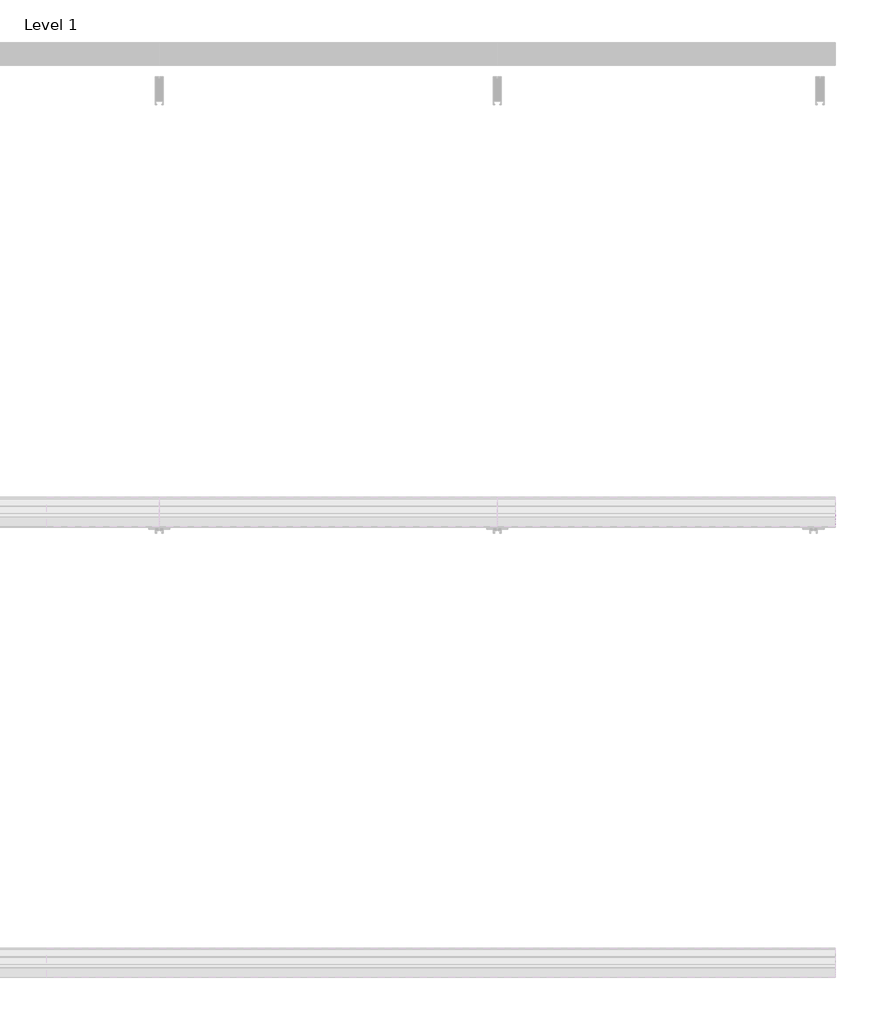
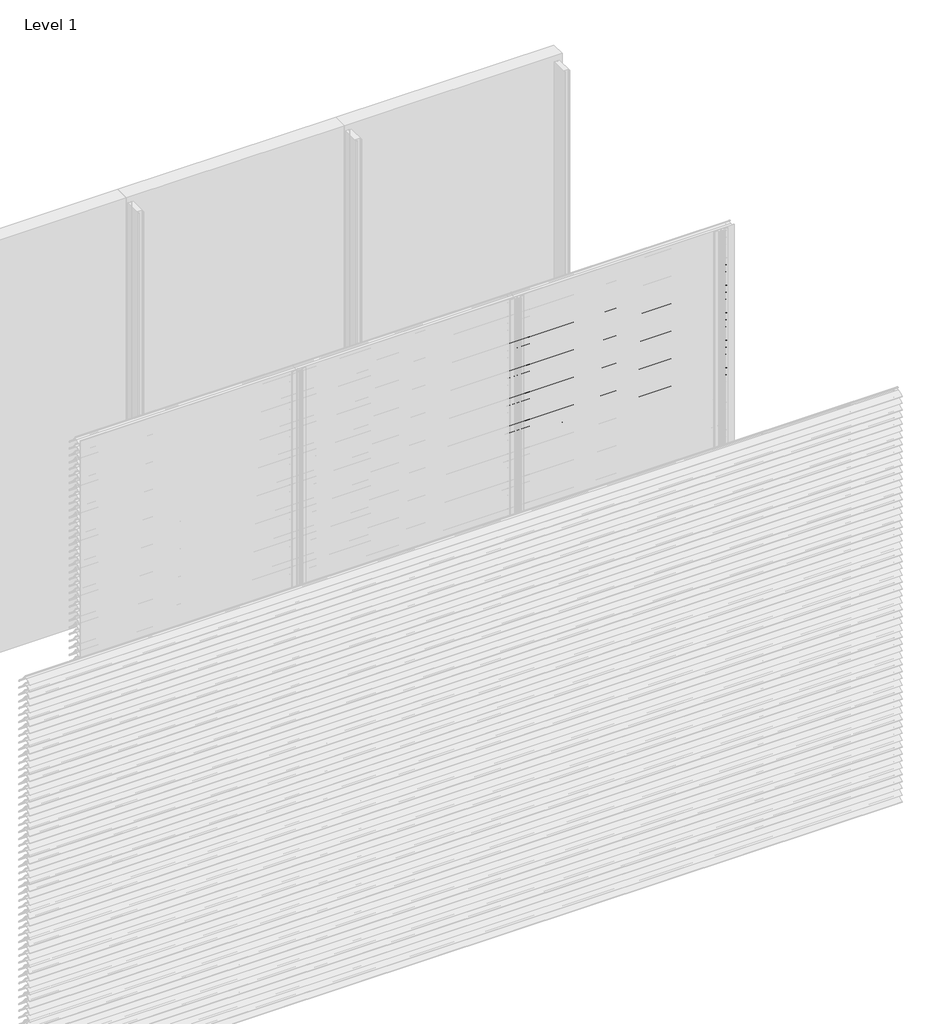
# One storey, part 17 of 173: 17 proxies.
"""IFC4 building model written with IfcOpenShell, lengths in millimetres."""

from ifc_helpers import new_model, si_unit, point, frame, frame_2d, origin, place, context, project, spatial, polyline, circle_curve, trimmed, segment, composite_curve, outline, extrude, element, save

model = new_model("IFC4")

# Units and contexts
model_context = context("Model", 3, world=origin())
ifc_project = project(units=[si_unit("LENGTHUNIT", "METRE", prefix="MILLI")], contexts=[model_context])

# Site, building, storey
site = spatial("IfcSite", under=ifc_project)
building = spatial("IfcBuilding", under=site)
storey = spatial("IfcBuildingStorey", under=building, Name="Level 1", Elevation=0.0)

# Proxies
placement = place(None, origin())
element("IfcBuildingElementProxy", 1, Name="Wall Sweeps", at=placement, inside=storey, context=model_context, shape_type="SweptSolid", body=[
    extrude(outline(composite_curve([segment(polyline([(-53998.0, 2659.1474905), (-53998.0, 2661.6227417)]), True, "CONTINUOUS"), segment(trimmed(circle_curve(frame_2d((-53951.2682172, 2616.2200208)), 65.1557103), [point((-53998.0, 2661.6227417))], [point((-53954.4014323, 2681.3003524))], False, "CARTESIAN"), True, "CONTINUOUS"), segment(polyline([(-53954.4014323, 2681.3003524), (-53934.8315836, 2681.3003524)]), True, "CONTINUOUS"), segment(trimmed(circle_curve(frame_2d((-53732.7329489, 2828.5533172)), 250.0545817), [point((-53934.8315836, 2681.3003524))], [point((-53941.4452143, 2690.8344583))], False, "CARTESIAN"), True, "CONTINUOUS"), segment(trimmed(circle_curve(frame_2d((-53953.2981792, 2685.1737835)), 13.1352966), [point((-53941.4452143, 2690.8344583))], [point((-53953.8171475, 2698.298824))], True, "CARTESIAN"), True, "CONTINUOUS"), segment(polyline([(-53953.8171475, 2698.298824), (-53953.8171475, 2700.0)]), True, "CONTINUOUS"), segment(trimmed(circle_curve(frame_2d((-53953.2981792, 2685.1737835)), 14.8352966), [point((-53953.8171475, 2700.0))], [point((-53939.9637661, 2691.6760487))], False, "CARTESIAN"), True, "CONTINUOUS"), segment(trimmed(circle_curve(frame_2d((-53732.7329489, 2828.5533172)), 248.3545817), [point((-53939.9637661, 2691.6760487))], [point((-53873.8787895, 2624.2059416))], True, "CARTESIAN"), True, "CONTINUOUS"), segment(trimmed(circle_curve(frame_2d((-53883.8147537, 2611.6649442)), 16.0), [point((-53873.8787895, 2624.2059416))], [point((-53867.8648347, 2610.4))], False, "CARTESIAN"), True, "CONTINUOUS"), segment(polyline([(-53867.8648347, 2610.4), (-53869.6712069, 2610.4)]), True, "CONTINUOUS"), segment(trimmed(circle_curve(frame_2d((-53883.8147537, 2611.6649442)), 14.2), [point((-53869.6712069, 2610.4))], [point((-53874.9518628, 2622.7594998))], True, "CARTESIAN"), True, "CONTINUOUS"), segment(trimmed(circle_curve(frame_2d((-53732.7329489, 2828.5533172)), 250.1545817), [point((-53874.9518628, 2622.7594998))], [point((-53933.7064024, 2679.6003524))], False, "CARTESIAN"), True, "CONTINUOUS"), segment(polyline([(-53933.7064024, 2679.6003524), (-53954.3602632, 2679.6003524)]), True, "CONTINUOUS"), segment(trimmed(circle_curve(frame_2d((-53951.2682172, 2616.2200208)), 63.4557103), [point((-53954.3602632, 2679.6003524))], [point((-53998.0, 2659.1474905))], True, "CARTESIAN"), True, "CONTINUOUS")], self_intersect=False)), frame((4500.0, 0.0, 0.0), z_axis=(1.0, 0.0, 0.0), x_axis=(0.0, 1.0, 0.0)), (0.0, 0.0, 1.0), 1500.0),
])
element("IfcBuildingElementProxy", 2, Name="Wall Sweeps", at=placement, inside=storey, context=model_context, shape_type="SweptSolid", body=[
    extrude(outline(composite_curve([segment(polyline([(-53998.0, 2609.1474905), (-53998.0, 2611.6227417)]), True, "CONTINUOUS"), segment(trimmed(circle_curve(frame_2d((-53951.2682172, 2566.2200208)), 65.1557103), [point((-53998.0, 2611.6227417))], [point((-53954.4014323, 2631.3003524))], False, "CARTESIAN"), True, "CONTINUOUS"), segment(polyline([(-53954.4014323, 2631.3003524), (-53934.8315836, 2631.3003524)]), True, "CONTINUOUS"), segment(trimmed(circle_curve(frame_2d((-53732.7329489, 2778.5533172)), 250.0545817), [point((-53934.8315836, 2631.3003524))], [point((-53941.4452143, 2640.8344583))], False, "CARTESIAN"), True, "CONTINUOUS"), segment(trimmed(circle_curve(frame_2d((-53953.2981792, 2635.1737835)), 13.1352966), [point((-53941.4452143, 2640.8344583))], [point((-53953.8171475, 2648.298824))], True, "CARTESIAN"), True, "CONTINUOUS"), segment(polyline([(-53953.8171475, 2648.298824), (-53953.8171475, 2650.0)]), True, "CONTINUOUS"), segment(trimmed(circle_curve(frame_2d((-53953.2981792, 2635.1737835)), 14.8352966), [point((-53953.8171475, 2650.0))], [point((-53939.9637661, 2641.6760487))], False, "CARTESIAN"), True, "CONTINUOUS"), segment(trimmed(circle_curve(frame_2d((-53732.7329489, 2778.5533172)), 248.3545817), [point((-53939.9637661, 2641.6760487))], [point((-53873.8787895, 2574.2059416))], True, "CARTESIAN"), True, "CONTINUOUS"), segment(trimmed(circle_curve(frame_2d((-53883.8147537, 2561.6649442)), 16.0), [point((-53873.8787895, 2574.2059416))], [point((-53867.8648347, 2560.4))], False, "CARTESIAN"), True, "CONTINUOUS"), segment(polyline([(-53867.8648347, 2560.4), (-53869.6712069, 2560.4)]), True, "CONTINUOUS"), segment(trimmed(circle_curve(frame_2d((-53883.8147537, 2561.6649442)), 14.2), [point((-53869.6712069, 2560.4))], [point((-53874.9518628, 2572.7594998))], True, "CARTESIAN"), True, "CONTINUOUS"), segment(trimmed(circle_curve(frame_2d((-53732.7329489, 2778.5533172)), 250.1545817), [point((-53874.9518628, 2572.7594998))], [point((-53933.7064024, 2629.6003524))], False, "CARTESIAN"), True, "CONTINUOUS"), segment(polyline([(-53933.7064024, 2629.6003524), (-53954.3602632, 2629.6003524)]), True, "CONTINUOUS"), segment(trimmed(circle_curve(frame_2d((-53951.2682172, 2566.2200208)), 63.4557103), [point((-53954.3602632, 2629.6003524))], [point((-53998.0, 2609.1474905))], True, "CARTESIAN"), True, "CONTINUOUS")], self_intersect=False)), frame((4500.0, 0.0, 0.0), z_axis=(1.0, 0.0, 0.0), x_axis=(0.0, 1.0, 0.0)), (0.0, 0.0, 1.0), 1500.0),
])
element("IfcBuildingElementProxy", 3, Name="Wall Sweeps", at=placement, inside=storey, context=model_context, shape_type="SweptSolid", body=[
    extrude(outline(composite_curve([segment(polyline([(-53998.0, 2559.1474905), (-53998.0, 2561.6227417)]), True, "CONTINUOUS"), segment(trimmed(circle_curve(frame_2d((-53951.2682172, 2516.2200208)), 65.1557103), [point((-53998.0, 2561.6227417))], [point((-53954.4014323, 2581.3003524))], False, "CARTESIAN"), True, "CONTINUOUS"), segment(polyline([(-53954.4014323, 2581.3003524), (-53934.8315836, 2581.3003524)]), True, "CONTINUOUS"), segment(trimmed(circle_curve(frame_2d((-53732.7329489, 2728.5533172)), 250.0545817), [point((-53934.8315836, 2581.3003524))], [point((-53941.4452143, 2590.8344583))], False, "CARTESIAN"), True, "CONTINUOUS"), segment(trimmed(circle_curve(frame_2d((-53953.2981792, 2585.1737835)), 13.1352966), [point((-53941.4452143, 2590.8344583))], [point((-53953.8171475, 2598.298824))], True, "CARTESIAN"), True, "CONTINUOUS"), segment(polyline([(-53953.8171475, 2598.298824), (-53953.8171475, 2600.0)]), True, "CONTINUOUS"), segment(trimmed(circle_curve(frame_2d((-53953.2981792, 2585.1737835)), 14.8352966), [point((-53953.8171475, 2600.0))], [point((-53939.9637661, 2591.6760487))], False, "CARTESIAN"), True, "CONTINUOUS"), segment(trimmed(circle_curve(frame_2d((-53732.7329489, 2728.5533172)), 248.3545817), [point((-53939.9637661, 2591.6760487))], [point((-53873.8787895, 2524.2059416))], True, "CARTESIAN"), True, "CONTINUOUS"), segment(trimmed(circle_curve(frame_2d((-53883.8147537, 2511.6649442)), 16.0), [point((-53873.8787895, 2524.2059416))], [point((-53867.8648347, 2510.4))], False, "CARTESIAN"), True, "CONTINUOUS"), segment(polyline([(-53867.8648347, 2510.4), (-53869.6712069, 2510.4)]), True, "CONTINUOUS"), segment(trimmed(circle_curve(frame_2d((-53883.8147537, 2511.6649442)), 14.2), [point((-53869.6712069, 2510.4))], [point((-53874.9518628, 2522.7594998))], True, "CARTESIAN"), True, "CONTINUOUS"), segment(trimmed(circle_curve(frame_2d((-53732.7329489, 2728.5533172)), 250.1545817), [point((-53874.9518628, 2522.7594998))], [point((-53933.7064024, 2579.6003524))], False, "CARTESIAN"), True, "CONTINUOUS"), segment(polyline([(-53933.7064024, 2579.6003524), (-53954.3602632, 2579.6003524)]), True, "CONTINUOUS"), segment(trimmed(circle_curve(frame_2d((-53951.2682172, 2516.2200208)), 63.4557103), [point((-53954.3602632, 2579.6003524))], [point((-53998.0, 2559.1474905))], True, "CARTESIAN"), True, "CONTINUOUS")], self_intersect=False)), frame((4500.0, 0.0, 0.0), z_axis=(1.0, 0.0, 0.0), x_axis=(0.0, 1.0, 0.0)), (0.0, 0.0, 1.0), 1500.0),
])
element("IfcBuildingElementProxy", 4, Name="Wall Sweeps", at=placement, inside=storey, context=model_context, shape_type="SweptSolid", body=[
    extrude(outline(composite_curve([segment(polyline([(-53998.0, 2509.1474905), (-53998.0, 2511.6227417)]), True, "CONTINUOUS"), segment(trimmed(circle_curve(frame_2d((-53951.2682172, 2466.2200208)), 65.1557103), [point((-53998.0, 2511.6227417))], [point((-53954.4014323, 2531.3003524))], False, "CARTESIAN"), True, "CONTINUOUS"), segment(polyline([(-53954.4014323, 2531.3003524), (-53934.8315836, 2531.3003524)]), True, "CONTINUOUS"), segment(trimmed(circle_curve(frame_2d((-53732.7329489, 2678.5533172)), 250.0545817), [point((-53934.8315836, 2531.3003524))], [point((-53941.4452143, 2540.8344583))], False, "CARTESIAN"), True, "CONTINUOUS"), segment(trimmed(circle_curve(frame_2d((-53953.2981792, 2535.1737835)), 13.1352966), [point((-53941.4452143, 2540.8344583))], [point((-53953.8171475, 2548.298824))], True, "CARTESIAN"), True, "CONTINUOUS"), segment(polyline([(-53953.8171475, 2548.298824), (-53953.8171475, 2550.0)]), True, "CONTINUOUS"), segment(trimmed(circle_curve(frame_2d((-53953.2981792, 2535.1737835)), 14.8352966), [point((-53953.8171475, 2550.0))], [point((-53939.9637661, 2541.6760487))], False, "CARTESIAN"), True, "CONTINUOUS"), segment(trimmed(circle_curve(frame_2d((-53732.7329489, 2678.5533172)), 248.3545817), [point((-53939.9637661, 2541.6760487))], [point((-53873.8787895, 2474.2059416))], True, "CARTESIAN"), True, "CONTINUOUS"), segment(trimmed(circle_curve(frame_2d((-53883.8147537, 2461.6649442)), 16.0), [point((-53873.8787895, 2474.2059416))], [point((-53867.8648347, 2460.4))], False, "CARTESIAN"), True, "CONTINUOUS"), segment(polyline([(-53867.8648347, 2460.4), (-53869.6712069, 2460.4)]), True, "CONTINUOUS"), segment(trimmed(circle_curve(frame_2d((-53883.8147537, 2461.6649442)), 14.2), [point((-53869.6712069, 2460.4))], [point((-53874.9518628, 2472.7594998))], True, "CARTESIAN"), True, "CONTINUOUS"), segment(trimmed(circle_curve(frame_2d((-53732.7329489, 2678.5533172)), 250.1545817), [point((-53874.9518628, 2472.7594998))], [point((-53933.7064024, 2529.6003524))], False, "CARTESIAN"), True, "CONTINUOUS"), segment(polyline([(-53933.7064024, 2529.6003524), (-53954.3602632, 2529.6003524)]), True, "CONTINUOUS"), segment(trimmed(circle_curve(frame_2d((-53951.2682172, 2466.2200208)), 63.4557103), [point((-53954.3602632, 2529.6003524))], [point((-53998.0, 2509.1474905))], True, "CARTESIAN"), True, "CONTINUOUS")], self_intersect=False)), frame((4500.0, 0.0, 0.0), z_axis=(1.0, 0.0, 0.0), x_axis=(0.0, 1.0, 0.0)), (0.0, 0.0, 1.0), 1500.0),
])
element("IfcBuildingElementProxy", 5, Name="Wall Sweeps", at=placement, inside=storey, context=model_context, shape_type="SweptSolid", body=[
    extrude(outline(composite_curve([segment(polyline([(-53998.0, 2459.1474905), (-53998.0, 2461.6227417)]), True, "CONTINUOUS"), segment(trimmed(circle_curve(frame_2d((-53951.2682172, 2416.2200208)), 65.1557103), [point((-53998.0, 2461.6227417))], [point((-53954.4014323, 2481.3003524))], False, "CARTESIAN"), True, "CONTINUOUS"), segment(polyline([(-53954.4014323, 2481.3003524), (-53934.8315836, 2481.3003524)]), True, "CONTINUOUS"), segment(trimmed(circle_curve(frame_2d((-53732.7329489, 2628.5533172)), 250.0545817), [point((-53934.8315836, 2481.3003524))], [point((-53941.4452143, 2490.8344583))], False, "CARTESIAN"), True, "CONTINUOUS"), segment(trimmed(circle_curve(frame_2d((-53953.2981792, 2485.1737835)), 13.1352966), [point((-53941.4452143, 2490.8344583))], [point((-53953.8171475, 2498.298824))], True, "CARTESIAN"), True, "CONTINUOUS"), segment(polyline([(-53953.8171475, 2498.298824), (-53953.8171475, 2500.0)]), True, "CONTINUOUS"), segment(trimmed(circle_curve(frame_2d((-53953.2981792, 2485.1737835)), 14.8352966), [point((-53953.8171475, 2500.0))], [point((-53939.9637661, 2491.6760487))], False, "CARTESIAN"), True, "CONTINUOUS"), segment(trimmed(circle_curve(frame_2d((-53732.7329489, 2628.5533172)), 248.3545817), [point((-53939.9637661, 2491.6760487))], [point((-53873.8787895, 2424.2059416))], True, "CARTESIAN"), True, "CONTINUOUS"), segment(trimmed(circle_curve(frame_2d((-53883.8147537, 2411.6649442)), 16.0), [point((-53873.8787895, 2424.2059416))], [point((-53867.8648347, 2410.4))], False, "CARTESIAN"), True, "CONTINUOUS"), segment(polyline([(-53867.8648347, 2410.4), (-53869.6712069, 2410.4)]), True, "CONTINUOUS"), segment(trimmed(circle_curve(frame_2d((-53883.8147537, 2411.6649442)), 14.2), [point((-53869.6712069, 2410.4))], [point((-53874.9518628, 2422.7594998))], True, "CARTESIAN"), True, "CONTINUOUS"), segment(trimmed(circle_curve(frame_2d((-53732.7329489, 2628.5533172)), 250.1545817), [point((-53874.9518628, 2422.7594998))], [point((-53933.7064024, 2479.6003524))], False, "CARTESIAN"), True, "CONTINUOUS"), segment(polyline([(-53933.7064024, 2479.6003524), (-53954.3602632, 2479.6003524)]), True, "CONTINUOUS"), segment(trimmed(circle_curve(frame_2d((-53951.2682172, 2416.2200208)), 63.4557103), [point((-53954.3602632, 2479.6003524))], [point((-53998.0, 2459.1474905))], True, "CARTESIAN"), True, "CONTINUOUS")], self_intersect=False)), frame((4500.0, 0.0, 0.0), z_axis=(1.0, 0.0, 0.0), x_axis=(0.0, 1.0, 0.0)), (0.0, 0.0, 1.0), 1500.0),
])
element("IfcBuildingElementProxy", 6, Name="Wall Sweeps", at=placement, inside=storey, context=model_context, shape_type="SweptSolid", body=[
    extrude(outline(composite_curve([segment(polyline([(-53998.0, 2409.1474905), (-53998.0, 2411.6227417)]), True, "CONTINUOUS"), segment(trimmed(circle_curve(frame_2d((-53951.2682172, 2366.2200208)), 65.1557103), [point((-53998.0, 2411.6227417))], [point((-53954.4014323, 2431.3003524))], False, "CARTESIAN"), True, "CONTINUOUS"), segment(polyline([(-53954.4014323, 2431.3003524), (-53934.8315836, 2431.3003524)]), True, "CONTINUOUS"), segment(trimmed(circle_curve(frame_2d((-53732.7329489, 2578.5533172)), 250.0545817), [point((-53934.8315836, 2431.3003524))], [point((-53941.4452143, 2440.8344583))], False, "CARTESIAN"), True, "CONTINUOUS"), segment(trimmed(circle_curve(frame_2d((-53953.2981792, 2435.1737835)), 13.1352966), [point((-53941.4452143, 2440.8344583))], [point((-53953.8171475, 2448.298824))], True, "CARTESIAN"), True, "CONTINUOUS"), segment(polyline([(-53953.8171475, 2448.298824), (-53953.8171475, 2450.0)]), True, "CONTINUOUS"), segment(trimmed(circle_curve(frame_2d((-53953.2981792, 2435.1737835)), 14.8352966), [point((-53953.8171475, 2450.0))], [point((-53939.9637661, 2441.6760487))], False, "CARTESIAN"), True, "CONTINUOUS"), segment(trimmed(circle_curve(frame_2d((-53732.7329489, 2578.5533172)), 248.3545817), [point((-53939.9637661, 2441.6760487))], [point((-53873.8787895, 2374.2059416))], True, "CARTESIAN"), True, "CONTINUOUS"), segment(trimmed(circle_curve(frame_2d((-53883.8147537, 2361.6649442)), 16.0), [point((-53873.8787895, 2374.2059416))], [point((-53867.8648347, 2360.4))], False, "CARTESIAN"), True, "CONTINUOUS"), segment(polyline([(-53867.8648347, 2360.4), (-53869.6712069, 2360.4)]), True, "CONTINUOUS"), segment(trimmed(circle_curve(frame_2d((-53883.8147537, 2361.6649442)), 14.2), [point((-53869.6712069, 2360.4))], [point((-53874.9518628, 2372.7594998))], True, "CARTESIAN"), True, "CONTINUOUS"), segment(trimmed(circle_curve(frame_2d((-53732.7329489, 2578.5533172)), 250.1545817), [point((-53874.9518628, 2372.7594998))], [point((-53933.7064024, 2429.6003524))], False, "CARTESIAN"), True, "CONTINUOUS"), segment(polyline([(-53933.7064024, 2429.6003524), (-53954.3602632, 2429.6003524)]), True, "CONTINUOUS"), segment(trimmed(circle_curve(frame_2d((-53951.2682172, 2366.2200208)), 63.4557103), [point((-53954.3602632, 2429.6003524))], [point((-53998.0, 2409.1474905))], True, "CARTESIAN"), True, "CONTINUOUS")], self_intersect=False)), frame((4500.0, 0.0, 0.0), z_axis=(1.0, 0.0, 0.0), x_axis=(0.0, 1.0, 0.0)), (0.0, 0.0, 1.0), 1500.0),
])
element("IfcBuildingElementProxy", 7, Name="Wall Sweeps", at=placement, inside=storey, context=model_context, shape_type="SweptSolid", body=[
    extrude(outline(composite_curve([segment(polyline([(-53998.0, 2359.1474905), (-53998.0, 2361.6227417)]), True, "CONTINUOUS"), segment(trimmed(circle_curve(frame_2d((-53951.2682172, 2316.2200208)), 65.1557103), [point((-53998.0, 2361.6227417))], [point((-53954.4014323, 2381.3003524))], False, "CARTESIAN"), True, "CONTINUOUS"), segment(polyline([(-53954.4014323, 2381.3003524), (-53934.8315836, 2381.3003524)]), True, "CONTINUOUS"), segment(trimmed(circle_curve(frame_2d((-53732.7329489, 2528.5533172)), 250.0545817), [point((-53934.8315836, 2381.3003524))], [point((-53941.4452143, 2390.8344583))], False, "CARTESIAN"), True, "CONTINUOUS"), segment(trimmed(circle_curve(frame_2d((-53953.2981792, 2385.1737835)), 13.1352966), [point((-53941.4452143, 2390.8344583))], [point((-53953.8171475, 2398.298824))], True, "CARTESIAN"), True, "CONTINUOUS"), segment(polyline([(-53953.8171475, 2398.298824), (-53953.8171475, 2400.0)]), True, "CONTINUOUS"), segment(trimmed(circle_curve(frame_2d((-53953.2981792, 2385.1737835)), 14.8352966), [point((-53953.8171475, 2400.0))], [point((-53939.9637661, 2391.6760487))], False, "CARTESIAN"), True, "CONTINUOUS"), segment(trimmed(circle_curve(frame_2d((-53732.7329489, 2528.5533172)), 248.3545817), [point((-53939.9637661, 2391.6760487))], [point((-53873.8787895, 2324.2059416))], True, "CARTESIAN"), True, "CONTINUOUS"), segment(trimmed(circle_curve(frame_2d((-53883.8147537, 2311.6649442)), 16.0), [point((-53873.8787895, 2324.2059416))], [point((-53867.8648347, 2310.4))], False, "CARTESIAN"), True, "CONTINUOUS"), segment(polyline([(-53867.8648347, 2310.4), (-53869.6712069, 2310.4)]), True, "CONTINUOUS"), segment(trimmed(circle_curve(frame_2d((-53883.8147537, 2311.6649442)), 14.2), [point((-53869.6712069, 2310.4))], [point((-53874.9518628, 2322.7594998))], True, "CARTESIAN"), True, "CONTINUOUS"), segment(trimmed(circle_curve(frame_2d((-53732.7329489, 2528.5533172)), 250.1545817), [point((-53874.9518628, 2322.7594998))], [point((-53933.7064024, 2379.6003524))], False, "CARTESIAN"), True, "CONTINUOUS"), segment(polyline([(-53933.7064024, 2379.6003524), (-53954.3602632, 2379.6003524)]), True, "CONTINUOUS"), segment(trimmed(circle_curve(frame_2d((-53951.2682172, 2316.2200208)), 63.4557103), [point((-53954.3602632, 2379.6003524))], [point((-53998.0, 2359.1474905))], True, "CARTESIAN"), True, "CONTINUOUS")], self_intersect=False)), frame((4500.0, 0.0, 0.0), z_axis=(1.0, 0.0, 0.0), x_axis=(0.0, 1.0, 0.0)), (0.0, 0.0, 1.0), 1500.0),
])
element("IfcBuildingElementProxy", 8, Name="Wall Sweeps", at=placement, inside=storey, context=model_context, shape_type="SweptSolid", body=[
    extrude(outline(composite_curve([segment(polyline([(-53998.0, 2309.1474905), (-53998.0, 2311.6227417)]), True, "CONTINUOUS"), segment(trimmed(circle_curve(frame_2d((-53951.2682172, 2266.2200208)), 65.1557103), [point((-53998.0, 2311.6227417))], [point((-53954.4014323, 2331.3003524))], False, "CARTESIAN"), True, "CONTINUOUS"), segment(polyline([(-53954.4014323, 2331.3003524), (-53934.8315836, 2331.3003524)]), True, "CONTINUOUS"), segment(trimmed(circle_curve(frame_2d((-53732.7329489, 2478.5533172)), 250.0545817), [point((-53934.8315836, 2331.3003524))], [point((-53941.4452143, 2340.8344583))], False, "CARTESIAN"), True, "CONTINUOUS"), segment(trimmed(circle_curve(frame_2d((-53953.2981792, 2335.1737835)), 13.1352966), [point((-53941.4452143, 2340.8344583))], [point((-53953.8171475, 2348.298824))], True, "CARTESIAN"), True, "CONTINUOUS"), segment(polyline([(-53953.8171475, 2348.298824), (-53953.8171475, 2350.0)]), True, "CONTINUOUS"), segment(trimmed(circle_curve(frame_2d((-53953.2981792, 2335.1737835)), 14.8352966), [point((-53953.8171475, 2350.0))], [point((-53939.9637661, 2341.6760487))], False, "CARTESIAN"), True, "CONTINUOUS"), segment(trimmed(circle_curve(frame_2d((-53732.7329489, 2478.5533172)), 248.3545817), [point((-53939.9637661, 2341.6760487))], [point((-53873.8787895, 2274.2059416))], True, "CARTESIAN"), True, "CONTINUOUS"), segment(trimmed(circle_curve(frame_2d((-53883.8147537, 2261.6649442)), 16.0), [point((-53873.8787895, 2274.2059416))], [point((-53867.8648347, 2260.4))], False, "CARTESIAN"), True, "CONTINUOUS"), segment(polyline([(-53867.8648347, 2260.4), (-53869.6712069, 2260.4)]), True, "CONTINUOUS"), segment(trimmed(circle_curve(frame_2d((-53883.8147537, 2261.6649442)), 14.2), [point((-53869.6712069, 2260.4))], [point((-53874.9518628, 2272.7594998))], True, "CARTESIAN"), True, "CONTINUOUS"), segment(trimmed(circle_curve(frame_2d((-53732.7329489, 2478.5533172)), 250.1545817), [point((-53874.9518628, 2272.7594998))], [point((-53933.7064024, 2329.6003524))], False, "CARTESIAN"), True, "CONTINUOUS"), segment(polyline([(-53933.7064024, 2329.6003524), (-53954.3602632, 2329.6003524)]), True, "CONTINUOUS"), segment(trimmed(circle_curve(frame_2d((-53951.2682172, 2266.2200208)), 63.4557103), [point((-53954.3602632, 2329.6003524))], [point((-53998.0, 2309.1474905))], True, "CARTESIAN"), True, "CONTINUOUS")], self_intersect=False)), frame((4500.0, 0.0, 0.0), z_axis=(1.0, 0.0, 0.0), x_axis=(0.0, 1.0, 0.0)), (0.0, 0.0, 1.0), 1500.0),
])
element("IfcBuildingElementProxy", 9, Name="Wall Sweeps", at=placement, inside=storey, context=model_context, shape_type="SweptSolid", body=[
    extrude(outline(composite_curve([segment(polyline([(-53998.0, 2259.1474905), (-53998.0, 2261.6227417)]), True, "CONTINUOUS"), segment(trimmed(circle_curve(frame_2d((-53951.2682172, 2216.2200208)), 65.1557103), [point((-53998.0, 2261.6227417))], [point((-53954.4014323, 2281.3003524))], False, "CARTESIAN"), True, "CONTINUOUS"), segment(polyline([(-53954.4014323, 2281.3003524), (-53934.8315836, 2281.3003524)]), True, "CONTINUOUS"), segment(trimmed(circle_curve(frame_2d((-53732.7329489, 2428.5533172)), 250.0545817), [point((-53934.8315836, 2281.3003524))], [point((-53941.4452143, 2290.8344583))], False, "CARTESIAN"), True, "CONTINUOUS"), segment(trimmed(circle_curve(frame_2d((-53953.2981792, 2285.1737835)), 13.1352966), [point((-53941.4452143, 2290.8344583))], [point((-53953.8171475, 2298.298824))], True, "CARTESIAN"), True, "CONTINUOUS"), segment(polyline([(-53953.8171475, 2298.298824), (-53953.8171475, 2300.0)]), True, "CONTINUOUS"), segment(trimmed(circle_curve(frame_2d((-53953.2981792, 2285.1737835)), 14.8352966), [point((-53953.8171475, 2300.0))], [point((-53939.9637661, 2291.6760487))], False, "CARTESIAN"), True, "CONTINUOUS"), segment(trimmed(circle_curve(frame_2d((-53732.7329489, 2428.5533172)), 248.3545817), [point((-53939.9637661, 2291.6760487))], [point((-53873.8787895, 2224.2059416))], True, "CARTESIAN"), True, "CONTINUOUS"), segment(trimmed(circle_curve(frame_2d((-53883.8147537, 2211.6649442)), 16.0), [point((-53873.8787895, 2224.2059416))], [point((-53867.8648347, 2210.4))], False, "CARTESIAN"), True, "CONTINUOUS"), segment(polyline([(-53867.8648347, 2210.4), (-53869.6712069, 2210.4)]), True, "CONTINUOUS"), segment(trimmed(circle_curve(frame_2d((-53883.8147537, 2211.6649442)), 14.2), [point((-53869.6712069, 2210.4))], [point((-53874.9518628, 2222.7594998))], True, "CARTESIAN"), True, "CONTINUOUS"), segment(trimmed(circle_curve(frame_2d((-53732.7329489, 2428.5533172)), 250.1545817), [point((-53874.9518628, 2222.7594998))], [point((-53933.7064024, 2279.6003524))], False, "CARTESIAN"), True, "CONTINUOUS"), segment(polyline([(-53933.7064024, 2279.6003524), (-53954.3602632, 2279.6003524)]), True, "CONTINUOUS"), segment(trimmed(circle_curve(frame_2d((-53951.2682172, 2216.2200208)), 63.4557103), [point((-53954.3602632, 2279.6003524))], [point((-53998.0, 2259.1474905))], True, "CARTESIAN"), True, "CONTINUOUS")], self_intersect=False)), frame((4500.0, 0.0, 0.0), z_axis=(1.0, 0.0, 0.0), x_axis=(0.0, 1.0, 0.0)), (0.0, 0.0, 1.0), 1500.0),
])
element("IfcBuildingElementProxy", 10, Name="Wall Sweeps", at=placement, inside=storey, context=model_context, shape_type="SweptSolid", body=[
    extrude(outline(composite_curve([segment(polyline([(-53998.0, 2209.1474905), (-53998.0, 2211.6227417)]), True, "CONTINUOUS"), segment(trimmed(circle_curve(frame_2d((-53951.2682172, 2166.2200208)), 65.1557103), [point((-53998.0, 2211.6227417))], [point((-53954.4014323, 2231.3003524))], False, "CARTESIAN"), True, "CONTINUOUS"), segment(polyline([(-53954.4014323, 2231.3003524), (-53934.8315836, 2231.3003524)]), True, "CONTINUOUS"), segment(trimmed(circle_curve(frame_2d((-53732.7329489, 2378.5533172)), 250.0545817), [point((-53934.8315836, 2231.3003524))], [point((-53941.4452143, 2240.8344583))], False, "CARTESIAN"), True, "CONTINUOUS"), segment(trimmed(circle_curve(frame_2d((-53953.2981792, 2235.1737835)), 13.1352966), [point((-53941.4452143, 2240.8344583))], [point((-53953.8171475, 2248.298824))], True, "CARTESIAN"), True, "CONTINUOUS"), segment(polyline([(-53953.8171475, 2248.298824), (-53953.8171475, 2250.0)]), True, "CONTINUOUS"), segment(trimmed(circle_curve(frame_2d((-53953.2981792, 2235.1737835)), 14.8352966), [point((-53953.8171475, 2250.0))], [point((-53939.9637661, 2241.6760487))], False, "CARTESIAN"), True, "CONTINUOUS"), segment(trimmed(circle_curve(frame_2d((-53732.7329489, 2378.5533172)), 248.3545817), [point((-53939.9637661, 2241.6760487))], [point((-53873.8787895, 2174.2059416))], True, "CARTESIAN"), True, "CONTINUOUS"), segment(trimmed(circle_curve(frame_2d((-53883.8147537, 2161.6649442)), 16.0), [point((-53873.8787895, 2174.2059416))], [point((-53867.8648347, 2160.4))], False, "CARTESIAN"), True, "CONTINUOUS"), segment(polyline([(-53867.8648347, 2160.4), (-53869.6712069, 2160.4)]), True, "CONTINUOUS"), segment(trimmed(circle_curve(frame_2d((-53883.8147537, 2161.6649442)), 14.2), [point((-53869.6712069, 2160.4))], [point((-53874.9518628, 2172.7594998))], True, "CARTESIAN"), True, "CONTINUOUS"), segment(trimmed(circle_curve(frame_2d((-53732.7329489, 2378.5533172)), 250.1545817), [point((-53874.9518628, 2172.7594998))], [point((-53933.7064024, 2229.6003524))], False, "CARTESIAN"), True, "CONTINUOUS"), segment(polyline([(-53933.7064024, 2229.6003524), (-53954.3602632, 2229.6003524)]), True, "CONTINUOUS"), segment(trimmed(circle_curve(frame_2d((-53951.2682172, 2166.2200208)), 63.4557103), [point((-53954.3602632, 2229.6003524))], [point((-53998.0, 2209.1474905))], True, "CARTESIAN"), True, "CONTINUOUS")], self_intersect=False)), frame((4500.0, 0.0, 0.0), z_axis=(1.0, 0.0, 0.0), x_axis=(0.0, 1.0, 0.0)), (0.0, 0.0, 1.0), 1500.0),
])
element("IfcBuildingElementProxy", 11, Name="Wall Sweeps", at=placement, inside=storey, context=model_context, shape_type="SweptSolid", body=[
    extrude(outline(composite_curve([segment(polyline([(-53998.0, 2159.1474905), (-53998.0, 2161.6227417)]), True, "CONTINUOUS"), segment(trimmed(circle_curve(frame_2d((-53951.2682172, 2116.2200208)), 65.1557103), [point((-53998.0, 2161.6227417))], [point((-53954.4014323, 2181.3003524))], False, "CARTESIAN"), True, "CONTINUOUS"), segment(polyline([(-53954.4014323, 2181.3003524), (-53934.8315836, 2181.3003524)]), True, "CONTINUOUS"), segment(trimmed(circle_curve(frame_2d((-53732.7329489, 2328.5533172)), 250.0545817), [point((-53934.8315836, 2181.3003524))], [point((-53941.4452143, 2190.8344583))], False, "CARTESIAN"), True, "CONTINUOUS"), segment(trimmed(circle_curve(frame_2d((-53953.2981792, 2185.1737835)), 13.1352966), [point((-53941.4452143, 2190.8344583))], [point((-53953.8171475, 2198.298824))], True, "CARTESIAN"), True, "CONTINUOUS"), segment(polyline([(-53953.8171475, 2198.298824), (-53953.8171475, 2200.0)]), True, "CONTINUOUS"), segment(trimmed(circle_curve(frame_2d((-53953.2981792, 2185.1737835)), 14.8352966), [point((-53953.8171475, 2200.0))], [point((-53939.9637661, 2191.6760487))], False, "CARTESIAN"), True, "CONTINUOUS"), segment(trimmed(circle_curve(frame_2d((-53732.7329489, 2328.5533172)), 248.3545817), [point((-53939.9637661, 2191.6760487))], [point((-53873.8787895, 2124.2059416))], True, "CARTESIAN"), True, "CONTINUOUS"), segment(trimmed(circle_curve(frame_2d((-53883.8147537, 2111.6649442)), 16.0), [point((-53873.8787895, 2124.2059416))], [point((-53867.8648347, 2110.4))], False, "CARTESIAN"), True, "CONTINUOUS"), segment(polyline([(-53867.8648347, 2110.4), (-53869.6712069, 2110.4)]), True, "CONTINUOUS"), segment(trimmed(circle_curve(frame_2d((-53883.8147537, 2111.6649442)), 14.2), [point((-53869.6712069, 2110.4))], [point((-53874.9518628, 2122.7594998))], True, "CARTESIAN"), True, "CONTINUOUS"), segment(trimmed(circle_curve(frame_2d((-53732.7329489, 2328.5533172)), 250.1545817), [point((-53874.9518628, 2122.7594998))], [point((-53933.7064024, 2179.6003524))], False, "CARTESIAN"), True, "CONTINUOUS"), segment(polyline([(-53933.7064024, 2179.6003524), (-53954.3602632, 2179.6003524)]), True, "CONTINUOUS"), segment(trimmed(circle_curve(frame_2d((-53951.2682172, 2116.2200208)), 63.4557103), [point((-53954.3602632, 2179.6003524))], [point((-53998.0, 2159.1474905))], True, "CARTESIAN"), True, "CONTINUOUS")], self_intersect=False)), frame((4500.0, 0.0, 0.0), z_axis=(1.0, 0.0, 0.0), x_axis=(0.0, 1.0, 0.0)), (0.0, 0.0, 1.0), 1500.0),
])
element("IfcBuildingElementProxy", 12, Name="Wall Sweeps", at=placement, inside=storey, context=model_context, shape_type="SweptSolid", body=[
    extrude(outline(composite_curve([segment(polyline([(-53998.0, 2109.1474905), (-53998.0, 2111.6227417)]), True, "CONTINUOUS"), segment(trimmed(circle_curve(frame_2d((-53951.2682172, 2066.2200208)), 65.1557103), [point((-53998.0, 2111.6227417))], [point((-53954.4014323, 2131.3003524))], False, "CARTESIAN"), True, "CONTINUOUS"), segment(polyline([(-53954.4014323, 2131.3003524), (-53934.8315836, 2131.3003524)]), True, "CONTINUOUS"), segment(trimmed(circle_curve(frame_2d((-53732.7329489, 2278.5533172)), 250.0545817), [point((-53934.8315836, 2131.3003524))], [point((-53941.4452143, 2140.8344583))], False, "CARTESIAN"), True, "CONTINUOUS"), segment(trimmed(circle_curve(frame_2d((-53953.2981792, 2135.1737835)), 13.1352966), [point((-53941.4452143, 2140.8344583))], [point((-53953.8171475, 2148.298824))], True, "CARTESIAN"), True, "CONTINUOUS"), segment(polyline([(-53953.8171475, 2148.298824), (-53953.8171475, 2150.0)]), True, "CONTINUOUS"), segment(trimmed(circle_curve(frame_2d((-53953.2981792, 2135.1737835)), 14.8352966), [point((-53953.8171475, 2150.0))], [point((-53939.9637661, 2141.6760487))], False, "CARTESIAN"), True, "CONTINUOUS"), segment(trimmed(circle_curve(frame_2d((-53732.7329489, 2278.5533172)), 248.3545817), [point((-53939.9637661, 2141.6760487))], [point((-53873.8787895, 2074.2059416))], True, "CARTESIAN"), True, "CONTINUOUS"), segment(trimmed(circle_curve(frame_2d((-53883.8147537, 2061.6649442)), 16.0), [point((-53873.8787895, 2074.2059416))], [point((-53867.8648347, 2060.4))], False, "CARTESIAN"), True, "CONTINUOUS"), segment(polyline([(-53867.8648347, 2060.4), (-53869.6712069, 2060.4)]), True, "CONTINUOUS"), segment(trimmed(circle_curve(frame_2d((-53883.8147537, 2061.6649442)), 14.2), [point((-53869.6712069, 2060.4))], [point((-53874.9518628, 2072.7594998))], True, "CARTESIAN"), True, "CONTINUOUS"), segment(trimmed(circle_curve(frame_2d((-53732.7329489, 2278.5533172)), 250.1545817), [point((-53874.9518628, 2072.7594998))], [point((-53933.7064024, 2129.6003524))], False, "CARTESIAN"), True, "CONTINUOUS"), segment(polyline([(-53933.7064024, 2129.6003524), (-53954.3602632, 2129.6003524)]), True, "CONTINUOUS"), segment(trimmed(circle_curve(frame_2d((-53951.2682172, 2066.2200208)), 63.4557103), [point((-53954.3602632, 2129.6003524))], [point((-53998.0, 2109.1474905))], True, "CARTESIAN"), True, "CONTINUOUS")], self_intersect=False)), frame((4500.0, 0.0, 0.0), z_axis=(1.0, 0.0, 0.0), x_axis=(0.0, 1.0, 0.0)), (0.0, 0.0, 1.0), 1500.0),
])
element("IfcBuildingElementProxy", 13, Name="Wall Sweeps", at=placement, inside=storey, context=model_context, shape_type="SweptSolid", body=[
    extrude(outline(composite_curve([segment(polyline([(-53998.0, 2059.1474905), (-53998.0, 2061.6227417)]), True, "CONTINUOUS"), segment(trimmed(circle_curve(frame_2d((-53951.2682172, 2016.2200208)), 65.1557103), [point((-53998.0, 2061.6227417))], [point((-53954.4014323, 2081.3003524))], False, "CARTESIAN"), True, "CONTINUOUS"), segment(polyline([(-53954.4014323, 2081.3003524), (-53934.8315836, 2081.3003524)]), True, "CONTINUOUS"), segment(trimmed(circle_curve(frame_2d((-53732.7329489, 2228.5533172)), 250.0545817), [point((-53934.8315836, 2081.3003524))], [point((-53941.4452143, 2090.8344583))], False, "CARTESIAN"), True, "CONTINUOUS"), segment(trimmed(circle_curve(frame_2d((-53953.2981792, 2085.1737835)), 13.1352966), [point((-53941.4452143, 2090.8344583))], [point((-53953.8171475, 2098.298824))], True, "CARTESIAN"), True, "CONTINUOUS"), segment(polyline([(-53953.8171475, 2098.298824), (-53953.8171475, 2100.0)]), True, "CONTINUOUS"), segment(trimmed(circle_curve(frame_2d((-53953.2981792, 2085.1737835)), 14.8352966), [point((-53953.8171475, 2100.0))], [point((-53939.9637661, 2091.6760487))], False, "CARTESIAN"), True, "CONTINUOUS"), segment(trimmed(circle_curve(frame_2d((-53732.7329489, 2228.5533172)), 248.3545817), [point((-53939.9637661, 2091.6760487))], [point((-53873.8787895, 2024.2059416))], True, "CARTESIAN"), True, "CONTINUOUS"), segment(trimmed(circle_curve(frame_2d((-53883.8147537, 2011.6649442)), 16.0), [point((-53873.8787895, 2024.2059416))], [point((-53867.8648347, 2010.4))], False, "CARTESIAN"), True, "CONTINUOUS"), segment(polyline([(-53867.8648347, 2010.4), (-53869.6712069, 2010.4)]), True, "CONTINUOUS"), segment(trimmed(circle_curve(frame_2d((-53883.8147537, 2011.6649442)), 14.2), [point((-53869.6712069, 2010.4))], [point((-53874.9518628, 2022.7594998))], True, "CARTESIAN"), True, "CONTINUOUS"), segment(trimmed(circle_curve(frame_2d((-53732.7329489, 2228.5533172)), 250.1545817), [point((-53874.9518628, 2022.7594998))], [point((-53933.7064024, 2079.6003524))], False, "CARTESIAN"), True, "CONTINUOUS"), segment(polyline([(-53933.7064024, 2079.6003524), (-53954.3602632, 2079.6003524)]), True, "CONTINUOUS"), segment(trimmed(circle_curve(frame_2d((-53951.2682172, 2016.2200208)), 63.4557103), [point((-53954.3602632, 2079.6003524))], [point((-53998.0, 2059.1474905))], True, "CARTESIAN"), True, "CONTINUOUS")], self_intersect=False)), frame((4500.0, 0.0, 0.0), z_axis=(1.0, 0.0, 0.0), x_axis=(0.0, 1.0, 0.0)), (0.0, 0.0, 1.0), 1500.0),
])
element("IfcBuildingElementProxy", 14, Name="Wall Sweeps", at=placement, inside=storey, context=model_context, shape_type="SweptSolid", body=[
    extrude(outline(composite_curve([segment(polyline([(-53998.0, 2009.1474905), (-53998.0, 2011.6227417)]), True, "CONTINUOUS"), segment(trimmed(circle_curve(frame_2d((-53951.2682172, 1966.2200208)), 65.1557103), [point((-53998.0, 2011.6227417))], [point((-53954.4014323, 2031.3003524))], False, "CARTESIAN"), True, "CONTINUOUS"), segment(polyline([(-53954.4014323, 2031.3003524), (-53934.8315836, 2031.3003524)]), True, "CONTINUOUS"), segment(trimmed(circle_curve(frame_2d((-53732.7329489, 2178.5533172)), 250.0545817), [point((-53934.8315836, 2031.3003524))], [point((-53941.4452143, 2040.8344583))], False, "CARTESIAN"), True, "CONTINUOUS"), segment(trimmed(circle_curve(frame_2d((-53953.2981792, 2035.1737835)), 13.1352966), [point((-53941.4452143, 2040.8344583))], [point((-53953.8171475, 2048.298824))], True, "CARTESIAN"), True, "CONTINUOUS"), segment(polyline([(-53953.8171475, 2048.298824), (-53953.8171475, 2050.0)]), True, "CONTINUOUS"), segment(trimmed(circle_curve(frame_2d((-53953.2981792, 2035.1737835)), 14.8352966), [point((-53953.8171475, 2050.0))], [point((-53939.9637661, 2041.6760487))], False, "CARTESIAN"), True, "CONTINUOUS"), segment(trimmed(circle_curve(frame_2d((-53732.7329489, 2178.5533172)), 248.3545817), [point((-53939.9637661, 2041.6760487))], [point((-53873.8787895, 1974.2059416))], True, "CARTESIAN"), True, "CONTINUOUS"), segment(trimmed(circle_curve(frame_2d((-53883.8147537, 1961.6649442)), 16.0), [point((-53873.8787895, 1974.2059416))], [point((-53867.8648347, 1960.4))], False, "CARTESIAN"), True, "CONTINUOUS"), segment(polyline([(-53867.8648347, 1960.4), (-53869.6712069, 1960.4)]), True, "CONTINUOUS"), segment(trimmed(circle_curve(frame_2d((-53883.8147537, 1961.6649442)), 14.2), [point((-53869.6712069, 1960.4))], [point((-53874.9518628, 1972.7594998))], True, "CARTESIAN"), True, "CONTINUOUS"), segment(trimmed(circle_curve(frame_2d((-53732.7329489, 2178.5533172)), 250.1545817), [point((-53874.9518628, 1972.7594998))], [point((-53933.7064024, 2029.6003524))], False, "CARTESIAN"), True, "CONTINUOUS"), segment(polyline([(-53933.7064024, 2029.6003524), (-53954.3602632, 2029.6003524)]), True, "CONTINUOUS"), segment(trimmed(circle_curve(frame_2d((-53951.2682172, 1966.2200208)), 63.4557103), [point((-53954.3602632, 2029.6003524))], [point((-53998.0, 2009.1474905))], True, "CARTESIAN"), True, "CONTINUOUS")], self_intersect=False)), frame((4500.0, 0.0, 0.0), z_axis=(1.0, 0.0, 0.0), x_axis=(0.0, 1.0, 0.0)), (0.0, 0.0, 1.0), 1500.0),
])
element("IfcBuildingElementProxy", 15, Name="Wall Sweeps", at=placement, inside=storey, context=model_context, shape_type="SweptSolid", body=[
    extrude(outline(composite_curve([segment(polyline([(-53998.0, 1959.1474905), (-53998.0, 1961.6227417)]), True, "CONTINUOUS"), segment(trimmed(circle_curve(frame_2d((-53951.2682172, 1916.2200208)), 65.1557103), [point((-53998.0, 1961.6227417))], [point((-53954.4014323, 1981.3003524))], False, "CARTESIAN"), True, "CONTINUOUS"), segment(polyline([(-53954.4014323, 1981.3003524), (-53934.8315836, 1981.3003524)]), True, "CONTINUOUS"), segment(trimmed(circle_curve(frame_2d((-53732.7329489, 2128.5533172)), 250.0545817), [point((-53934.8315836, 1981.3003524))], [point((-53941.4452143, 1990.8344583))], False, "CARTESIAN"), True, "CONTINUOUS"), segment(trimmed(circle_curve(frame_2d((-53953.2981792, 1985.1737835)), 13.1352966), [point((-53941.4452143, 1990.8344583))], [point((-53953.8171475, 1998.298824))], True, "CARTESIAN"), True, "CONTINUOUS"), segment(polyline([(-53953.8171475, 1998.298824), (-53953.8171475, 2000.0)]), True, "CONTINUOUS"), segment(trimmed(circle_curve(frame_2d((-53953.2981792, 1985.1737835)), 14.8352966), [point((-53953.8171475, 2000.0))], [point((-53939.9637661, 1991.6760487))], False, "CARTESIAN"), True, "CONTINUOUS"), segment(trimmed(circle_curve(frame_2d((-53732.7329489, 2128.5533172)), 248.3545817), [point((-53939.9637661, 1991.6760487))], [point((-53873.8787895, 1924.2059416))], True, "CARTESIAN"), True, "CONTINUOUS"), segment(trimmed(circle_curve(frame_2d((-53883.8147537, 1911.6649442)), 16.0), [point((-53873.8787895, 1924.2059416))], [point((-53867.8648347, 1910.4))], False, "CARTESIAN"), True, "CONTINUOUS"), segment(polyline([(-53867.8648347, 1910.4), (-53869.6712069, 1910.4)]), True, "CONTINUOUS"), segment(trimmed(circle_curve(frame_2d((-53883.8147537, 1911.6649442)), 14.2), [point((-53869.6712069, 1910.4))], [point((-53874.9518628, 1922.7594998))], True, "CARTESIAN"), True, "CONTINUOUS"), segment(trimmed(circle_curve(frame_2d((-53732.7329489, 2128.5533172)), 250.1545817), [point((-53874.9518628, 1922.7594998))], [point((-53933.7064024, 1979.6003524))], False, "CARTESIAN"), True, "CONTINUOUS"), segment(polyline([(-53933.7064024, 1979.6003524), (-53954.3602632, 1979.6003524)]), True, "CONTINUOUS"), segment(trimmed(circle_curve(frame_2d((-53951.2682172, 1916.2200208)), 63.4557103), [point((-53954.3602632, 1979.6003524))], [point((-53998.0, 1959.1474905))], True, "CARTESIAN"), True, "CONTINUOUS")], self_intersect=False)), frame((4500.0, 0.0, 0.0), z_axis=(1.0, 0.0, 0.0), x_axis=(0.0, 1.0, 0.0)), (0.0, 0.0, 1.0), 1500.0),
])
element("IfcBuildingElementProxy", 16, Name="Wall Sweeps", at=placement, inside=storey, context=model_context, shape_type="SweptSolid", body=[
    extrude(outline(composite_curve([segment(polyline([(-53998.0, 1909.1474905), (-53998.0, 1911.6227417)]), True, "CONTINUOUS"), segment(trimmed(circle_curve(frame_2d((-53951.2682172, 1866.2200208)), 65.1557103), [point((-53998.0, 1911.6227417))], [point((-53954.4014323, 1931.3003524))], False, "CARTESIAN"), True, "CONTINUOUS"), segment(polyline([(-53954.4014323, 1931.3003524), (-53934.8315836, 1931.3003524)]), True, "CONTINUOUS"), segment(trimmed(circle_curve(frame_2d((-53732.7329489, 2078.5533172)), 250.0545817), [point((-53934.8315836, 1931.3003524))], [point((-53941.4452143, 1940.8344583))], False, "CARTESIAN"), True, "CONTINUOUS"), segment(trimmed(circle_curve(frame_2d((-53953.2981792, 1935.1737835)), 13.1352966), [point((-53941.4452143, 1940.8344583))], [point((-53953.8171475, 1948.298824))], True, "CARTESIAN"), True, "CONTINUOUS"), segment(polyline([(-53953.8171475, 1948.298824), (-53953.8171475, 1950.0)]), True, "CONTINUOUS"), segment(trimmed(circle_curve(frame_2d((-53953.2981792, 1935.1737835)), 14.8352966), [point((-53953.8171475, 1950.0))], [point((-53939.9637661, 1941.6760487))], False, "CARTESIAN"), True, "CONTINUOUS"), segment(trimmed(circle_curve(frame_2d((-53732.7329489, 2078.5533172)), 248.3545817), [point((-53939.9637661, 1941.6760487))], [point((-53873.8787895, 1874.2059416))], True, "CARTESIAN"), True, "CONTINUOUS"), segment(trimmed(circle_curve(frame_2d((-53883.8147537, 1861.6649442)), 16.0), [point((-53873.8787895, 1874.2059416))], [point((-53867.8648347, 1860.4))], False, "CARTESIAN"), True, "CONTINUOUS"), segment(polyline([(-53867.8648347, 1860.4), (-53869.6712069, 1860.4)]), True, "CONTINUOUS"), segment(trimmed(circle_curve(frame_2d((-53883.8147537, 1861.6649442)), 14.2), [point((-53869.6712069, 1860.4))], [point((-53874.9518628, 1872.7594998))], True, "CARTESIAN"), True, "CONTINUOUS"), segment(trimmed(circle_curve(frame_2d((-53732.7329489, 2078.5533172)), 250.1545817), [point((-53874.9518628, 1872.7594998))], [point((-53933.7064024, 1929.6003524))], False, "CARTESIAN"), True, "CONTINUOUS"), segment(polyline([(-53933.7064024, 1929.6003524), (-53954.3602632, 1929.6003524)]), True, "CONTINUOUS"), segment(trimmed(circle_curve(frame_2d((-53951.2682172, 1866.2200208)), 63.4557103), [point((-53954.3602632, 1929.6003524))], [point((-53998.0, 1909.1474905))], True, "CARTESIAN"), True, "CONTINUOUS")], self_intersect=False)), frame((4500.0, 0.0, 0.0), z_axis=(1.0, 0.0, 0.0), x_axis=(0.0, 1.0, 0.0)), (0.0, 0.0, 1.0), 1500.0),
])
element("IfcBuildingElementProxy", 17, Name="Wall Sweeps", at=placement, inside=storey, context=model_context, shape_type="SweptSolid", body=[
    extrude(outline(composite_curve([segment(polyline([(-53998.0, 1859.1474905), (-53998.0, 1861.6227417)]), True, "CONTINUOUS"), segment(trimmed(circle_curve(frame_2d((-53951.2682172, 1816.2200208)), 65.1557103), [point((-53998.0, 1861.6227417))], [point((-53954.4014323, 1881.3003524))], False, "CARTESIAN"), True, "CONTINUOUS"), segment(polyline([(-53954.4014323, 1881.3003524), (-53934.8315836, 1881.3003524)]), True, "CONTINUOUS"), segment(trimmed(circle_curve(frame_2d((-53732.7329489, 2028.5533172)), 250.0545817), [point((-53934.8315836, 1881.3003524))], [point((-53941.4452143, 1890.8344583))], False, "CARTESIAN"), True, "CONTINUOUS"), segment(trimmed(circle_curve(frame_2d((-53953.2981792, 1885.1737835)), 13.1352966), [point((-53941.4452143, 1890.8344583))], [point((-53953.8171475, 1898.298824))], True, "CARTESIAN"), True, "CONTINUOUS"), segment(polyline([(-53953.8171475, 1898.298824), (-53953.8171475, 1900.0)]), True, "CONTINUOUS"), segment(trimmed(circle_curve(frame_2d((-53953.2981792, 1885.1737835)), 14.8352966), [point((-53953.8171475, 1900.0))], [point((-53939.9637661, 1891.6760487))], False, "CARTESIAN"), True, "CONTINUOUS"), segment(trimmed(circle_curve(frame_2d((-53732.7329489, 2028.5533172)), 248.3545817), [point((-53939.9637661, 1891.6760487))], [point((-53873.8787895, 1824.2059416))], True, "CARTESIAN"), True, "CONTINUOUS"), segment(trimmed(circle_curve(frame_2d((-53883.8147537, 1811.6649442)), 16.0), [point((-53873.8787895, 1824.2059416))], [point((-53867.8648347, 1810.4))], False, "CARTESIAN"), True, "CONTINUOUS"), segment(polyline([(-53867.8648347, 1810.4), (-53869.6712069, 1810.4)]), True, "CONTINUOUS"), segment(trimmed(circle_curve(frame_2d((-53883.8147537, 1811.6649442)), 14.2), [point((-53869.6712069, 1810.4))], [point((-53874.9518628, 1822.7594998))], True, "CARTESIAN"), True, "CONTINUOUS"), segment(trimmed(circle_curve(frame_2d((-53732.7329489, 2028.5533172)), 250.1545817), [point((-53874.9518628, 1822.7594998))], [point((-53933.7064024, 1879.6003524))], False, "CARTESIAN"), True, "CONTINUOUS"), segment(polyline([(-53933.7064024, 1879.6003524), (-53954.3602632, 1879.6003524)]), True, "CONTINUOUS"), segment(trimmed(circle_curve(frame_2d((-53951.2682172, 1816.2200208)), 63.4557103), [point((-53954.3602632, 1879.6003524))], [point((-53998.0, 1859.1474905))], True, "CARTESIAN"), True, "CONTINUOUS")], self_intersect=False)), frame((4500.0, 0.0, 0.0), z_axis=(1.0, 0.0, 0.0), x_axis=(0.0, 1.0, 0.0)), (0.0, 0.0, 1.0), 1500.0),
])

save(model, "model.ifc")
